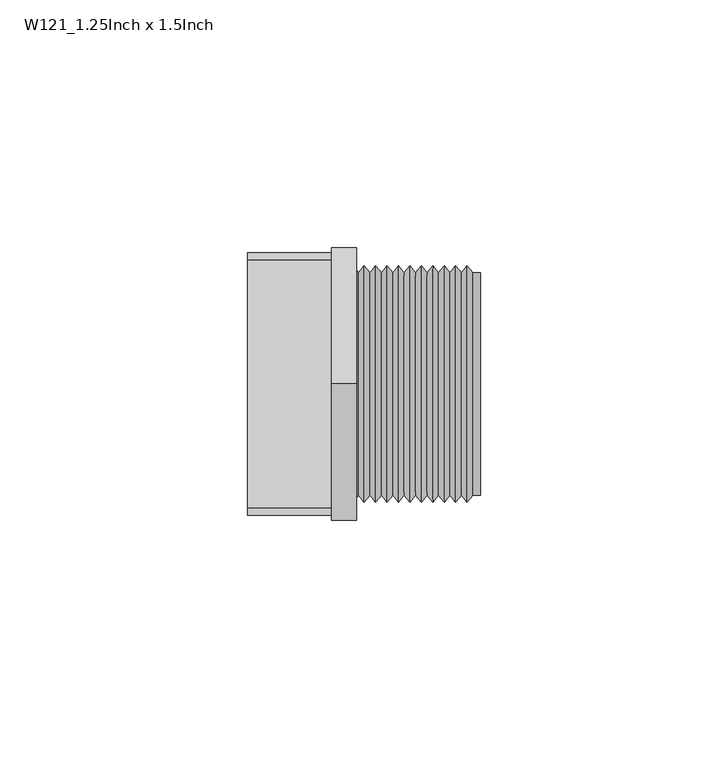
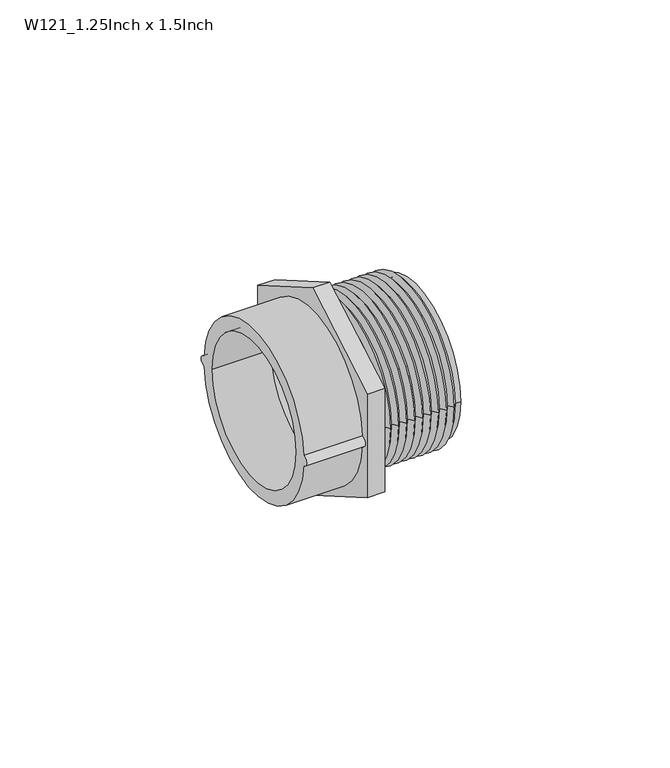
"""IFC4 building model written with IfcOpenShell, lengths in millimetres: pipe fitting geometry, Durapipe_PipeFitting_VulcatheneMechanical_1.25FIto1.5MI_W121 : W121_1.25Inch x 1.5Inch."""

from ifc_helpers import new_model, si_unit, frame, origin, place, context, project, spatial, polyline, circle_curve, source, transform, mapped, element, save
from ifc_brep_helpers import plane_surface, cylinder_surface, revolved_surface, advanced_brep


def w121_1_25inch_x_1_5inch_c2e79ad5(model_context):
    return source(origin(), model_context, "Body", "AdvancedBrep", [
        advanced_brep(
        [(-23.5, 24.955, 1.4993248), (-23.5, 24.955, -1.4993248), (-23.5, -24.955, -1.4993248), (-23.5, -24.955, 1.4993248), (-23.5, -20.955, 0.0), (-23.5, 20.955, 0.0), (-6.5, -24.955, 1.4993248), (-6.5, 24.955, 1.4993248), (-6.5, -24.955, -1.4993248), (-6.5, 24.955, -1.4993248), (-6.5, 20.955, 0.0), (-6.5, -20.955, 0.0), (-1.5, 0.0, 31.7542648), (-1.5, -27.5, 15.8771324), (-1.5, -27.5, -15.8771324), (-1.5, 0.0, -31.7542648), (-1.5, 27.5, -15.8771324), (-1.5, 27.5, 15.8771324), (-1.5, 22.9410542, 0.0), (-1.5, -22.9410542, 0.0), (-6.5, 0.0, 31.7542648), (-6.5, 27.5, 15.8771324), (-6.5, 27.5, -15.8771324), (-6.5, 0.0, -31.7542648), (-6.5, -27.5, -15.8771324), (-6.5, -27.5, 15.8771324), (-2.25329, 20.955, 0.0), (-1.5, 20.955, 0.0), (-1.5, -20.955, 0.0), (-2.25329, -20.955, 0.0), (23.5, -20.955, 0.0), (23.5, 20.955, 0.0), (23.5, -22.4296534, 0.0), (23.5, 22.4296534, 0.0), (22.0, -22.4296534, 0.0), (22.0, 22.4296534, 0.0), (20.84557, -23.9014, 0.0), (20.84557, 23.9014, 0.0), (19.69114, -22.4296534, 0.0), (19.69114, 22.4296534, 0.0), (18.53557, -23.9028534, 0.0), (18.53557, 23.9028534, 0.0), (17.38, -22.4296534, 0.0), (17.38, 22.4296534, 0.0), (16.22557, -23.9014, 0.0), (16.22557, 23.9014, 0.0), (15.07114, -22.4296534, 0.0), (15.07114, 22.4296534, 0.0), (13.91614, -23.9021267, 0.0), (13.91614, 23.9021267, 0.0), (12.76114, -22.4296534, 0.0), (12.76114, 22.4296534, 0.0), (11.60614, -23.9021267, 0.0), (11.60614, 23.9021267, 0.0), (10.45114, -22.4296534, 0.0), (10.45114, 22.4296534, 0.0), (9.29557, -23.9028534, 0.0), (9.29557, 23.9028534, 0.0), (8.14, -22.4296534, 0.0), (8.14, 22.4296534, 0.0), (6.985, -23.9021267, 0.0), (6.985, 23.9021267, 0.0), (5.83, -22.4296534, 0.0), (5.83, 22.4296534, 0.0), (4.675, -23.9021267, 0.0), (4.675, 23.9021267, 0.0), (3.52, -22.4296534, 0.0), (3.52, 22.4296534, 0.0), (2.365, -23.9021267, 0.0), (2.365, 23.9021267, 0.0), (1.21, -22.4296534, 0.0), (1.21, 22.4296534, 0.0), (0.05557, -23.9014, 0.0), (0.05557, 23.9014, 0.0), (-1.09886, -22.4296534, 0.0), (-1.09886, 22.4296534, 0.0)],
        [
            (0, 1, circle_curve(frame((-23.5, 25.0, 0.0), z_axis=(-1.0, 0.0, 0.0), x_axis=(0.0, 1.0, 0.0)), 1.5)),
            (1, 2, circle_curve(frame((-23.5, 0.0, 0.0), z_axis=(-1.0, 0.0, 0.0), x_axis=(0.0, 1.0, 0.0)), 25.0)),
            (2, 3, circle_curve(frame((-23.5, -25.0, 0.0), z_axis=(-1.0, 0.0, 0.0), x_axis=(0.0, 1.0, 0.0)), 1.5)),
            (3, 0, circle_curve(frame((-23.5, 0.0, 0.0), z_axis=(-1.0, 0.0, 0.0), x_axis=(0.0, 1.0, 0.0)), 25.0)),
            (4, 5, circle_curve(frame((-23.5, 0.0, 0.0), z_axis=(1.0, 0.0, 0.0), x_axis=(0.0, 1.0, 0.0)), 20.955)),
            (5, 4, circle_curve(frame((-23.5, 0.0, 0.0), z_axis=(1.0, 0.0, 0.0), x_axis=(0.0, 1.0, 0.0)), 20.955)),
            (3, 6),
            (6, 7, circle_curve(frame((-6.5, 0.0, 0.0), z_axis=(-1.0, 0.0, 0.0), x_axis=(0.0, 1.0, 0.0)), 25.0)),
            (7, 0),
            (2, 8),
            (8, 6, circle_curve(frame((-6.5, -25.0, 0.0), z_axis=(-1.0, 0.0, 0.0), x_axis=(0.0, 1.0, 0.0)), 1.5)),
            (1, 9),
            (9, 8, circle_curve(frame((-6.5, 0.0, 0.0), z_axis=(-1.0, 0.0, 0.0), x_axis=(0.0, 1.0, 0.0)), 25.0)),
            (7, 9, circle_curve(frame((-6.5, 25.0, 0.0), z_axis=(-1.0, 0.0, 0.0), x_axis=(0.0, 1.0, 0.0)), 1.5)),
            (5, 10),
            (10, 11, circle_curve(frame((-6.5, 0.0, 0.0), z_axis=(1.0, 0.0, 0.0), x_axis=(0.0, 1.0, 0.0)), 20.955)),
            (11, 4),
            (11, 10, circle_curve(frame((-6.5, 0.0, 0.0), z_axis=(1.0, 0.0, 0.0), x_axis=(0.0, 1.0, 0.0)), 20.955)),
            (12, 13),
            (13, 14),
            (14, 15),
            (15, 16),
            (16, 17),
            (17, 12),
            (18, 19, circle_curve(frame((-1.5, 0.0, 0.0), z_axis=(-1.0, 0.0, 0.0), x_axis=(0.0, 1.0, 0.0)), 22.9410542)),
            (19, 18, circle_curve(frame((-1.5, 0.0, 0.0), z_axis=(-1.0, 0.0, 0.0), x_axis=(0.0, 1.0, 0.0)), 22.9410542)),
            (20, 21),
            (21, 22),
            (22, 23),
            (23, 24),
            (24, 25),
            (25, 20),
            (12, 20),
            (25, 13),
            (24, 14),
            (23, 15),
            (22, 16),
            (21, 17),
            (10, 26),
            (26, 27),
            (27, 28, circle_curve(frame((-1.5, 0.0, 0.0), z_axis=(1.0, 0.0, 0.0), x_axis=(0.0, 1.0, 0.0)), 20.955)),
            (28, 29),
            (29, 11),
            (28, 27, circle_curve(frame((-1.5, 0.0, 0.0), z_axis=(1.0, 0.0, 0.0), x_axis=(0.0, 1.0, 0.0)), 20.955)),
            (30, 31, circle_curve(frame((23.5, 0.0, 0.0), z_axis=(1.0, 0.0, 0.0), x_axis=(0.0, 1.0, 0.0)), 20.955)),
            (31, 27),
            (28, 30),
            (31, 30, circle_curve(frame((23.5, 0.0, 0.0), z_axis=(1.0, 0.0, 0.0), x_axis=(0.0, 1.0, 0.0)), 20.955)),
            (30, 32),
            (32, 33, circle_curve(frame((23.5, 0.0, 0.0), z_axis=(1.0, 0.0, 0.0), x_axis=(0.0, 1.0, 0.0)), 22.4296534)),
            (33, 31),
            (33, 32, circle_curve(frame((23.5, 0.0, 0.0), z_axis=(1.0, 0.0, 0.0), x_axis=(0.0, 1.0, 0.0)), 22.4296534)),
            (32, 34),
            (34, 35, circle_curve(frame((22.0, 0.0, 0.0), z_axis=(1.0, 0.0, 0.0), x_axis=(0.0, 1.0, 0.0)), 22.4296534)),
            (35, 33),
            (35, 34, circle_curve(frame((22.0, 0.0, 0.0), z_axis=(1.0, 0.0, 0.0), x_axis=(0.0, 1.0, 0.0)), 22.4296534)),
            (34, 36),
            (36, 37, circle_curve(frame((20.84557, 0.0, 0.0), z_axis=(1.0, 0.0, 0.0), x_axis=(0.0, 1.0, 0.0)), 23.9014)),
            (37, 35),
            (37, 36, circle_curve(frame((20.84557, 0.0, 0.0), z_axis=(1.0, 0.0, 0.0), x_axis=(0.0, 1.0, 0.0)), 23.9014)),
            (36, 38),
            (38, 39, circle_curve(frame((19.69114, 0.0, 0.0), z_axis=(1.0, 0.0, 0.0), x_axis=(0.0, 1.0, 0.0)), 22.4296534)),
            (39, 37),
            (39, 38, circle_curve(frame((19.69114, 0.0, 0.0), z_axis=(1.0, 0.0, 0.0), x_axis=(0.0, 1.0, 0.0)), 22.4296534)),
            (38, 40),
            (40, 41, circle_curve(frame((18.53557, 0.0, 0.0), z_axis=(1.0, 0.0, 0.0), x_axis=(0.0, 1.0, 0.0)), 23.9028534)),
            (41, 39),
            (41, 40, circle_curve(frame((18.53557, 0.0, 0.0), z_axis=(1.0, 0.0, 0.0), x_axis=(0.0, 1.0, 0.0)), 23.9028534)),
            (40, 42),
            (42, 43, circle_curve(frame((17.38, 0.0, 0.0), z_axis=(1.0, 0.0, 0.0), x_axis=(0.0, 1.0, 0.0)), 22.4296534)),
            (43, 41),
            (43, 42, circle_curve(frame((17.38, 0.0, 0.0), z_axis=(1.0, 0.0, 0.0), x_axis=(0.0, 1.0, 0.0)), 22.4296534)),
            (42, 44),
            (44, 45, circle_curve(frame((16.22557, 0.0, 0.0), z_axis=(1.0, 0.0, 0.0), x_axis=(0.0, 1.0, 0.0)), 23.9014)),
            (45, 43),
            (45, 44, circle_curve(frame((16.22557, 0.0, 0.0), z_axis=(1.0, 0.0, 0.0), x_axis=(0.0, 1.0, 0.0)), 23.9014)),
            (44, 46),
            (46, 47, circle_curve(frame((15.07114, 0.0, 0.0), z_axis=(1.0, 0.0, 0.0), x_axis=(0.0, 1.0, 0.0)), 22.4296534)),
            (47, 45),
            (47, 46, circle_curve(frame((15.07114, 0.0, 0.0), z_axis=(1.0, 0.0, 0.0), x_axis=(0.0, 1.0, 0.0)), 22.4296534)),
            (46, 48),
            (48, 49, circle_curve(frame((13.91614, 0.0, 0.0), z_axis=(1.0, 0.0, 0.0), x_axis=(0.0, 1.0, 0.0)), 23.9021267)),
            (49, 47),
            (49, 48, circle_curve(frame((13.91614, 0.0, 0.0), z_axis=(1.0, 0.0, 0.0), x_axis=(0.0, 1.0, 0.0)), 23.9021267)),
            (48, 50),
            (50, 51, circle_curve(frame((12.76114, 0.0, 0.0), z_axis=(1.0, 0.0, 0.0), x_axis=(0.0, 1.0, 0.0)), 22.4296534)),
            (51, 49),
            (51, 50, circle_curve(frame((12.76114, 0.0, 0.0), z_axis=(1.0, 0.0, 0.0), x_axis=(0.0, 1.0, 0.0)), 22.4296534)),
            (50, 52),
            (52, 53, circle_curve(frame((11.60614, 0.0, 0.0), z_axis=(1.0, 0.0, 0.0), x_axis=(0.0, 1.0, 0.0)), 23.9021267)),
            (53, 51),
            (53, 52, circle_curve(frame((11.60614, 0.0, 0.0), z_axis=(1.0, 0.0, 0.0), x_axis=(0.0, 1.0, 0.0)), 23.9021267)),
            (52, 54),
            (54, 55, circle_curve(frame((10.45114, 0.0, 0.0), z_axis=(1.0, 0.0, 0.0), x_axis=(0.0, 1.0, 0.0)), 22.4296534)),
            (55, 53),
            (55, 54, circle_curve(frame((10.45114, 0.0, 0.0), z_axis=(1.0, 0.0, 0.0), x_axis=(0.0, 1.0, 0.0)), 22.4296534)),
            (54, 56),
            (56, 57, circle_curve(frame((9.29557, 0.0, 0.0), z_axis=(1.0, 0.0, 0.0), x_axis=(0.0, 1.0, 0.0)), 23.9028534)),
            (57, 55),
            (57, 56, circle_curve(frame((9.29557, 0.0, 0.0), z_axis=(1.0, 0.0, 0.0), x_axis=(0.0, 1.0, 0.0)), 23.9028534)),
            (56, 58),
            (58, 59, circle_curve(frame((8.14, 0.0, 0.0), z_axis=(1.0, 0.0, 0.0), x_axis=(0.0, 1.0, 0.0)), 22.4296534)),
            (59, 57),
            (59, 58, circle_curve(frame((8.14, 0.0, 0.0), z_axis=(1.0, 0.0, 0.0), x_axis=(0.0, 1.0, 0.0)), 22.4296534)),
            (58, 60),
            (60, 61, circle_curve(frame((6.985, 0.0, 0.0), z_axis=(1.0, 0.0, 0.0), x_axis=(0.0, 1.0, 0.0)), 23.9021267)),
            (61, 59),
            (61, 60, circle_curve(frame((6.985, 0.0, 0.0), z_axis=(1.0, 0.0, 0.0), x_axis=(0.0, 1.0, 0.0)), 23.9021267)),
            (60, 62),
            (62, 63, circle_curve(frame((5.83, 0.0, 0.0), z_axis=(1.0, 0.0, 0.0), x_axis=(0.0, 1.0, 0.0)), 22.4296534)),
            (63, 61),
            (63, 62, circle_curve(frame((5.83, 0.0, 0.0), z_axis=(1.0, 0.0, 0.0), x_axis=(0.0, 1.0, 0.0)), 22.4296534)),
            (62, 64),
            (64, 65, circle_curve(frame((4.675, 0.0, 0.0), z_axis=(1.0, 0.0, 0.0), x_axis=(0.0, 1.0, 0.0)), 23.9021267)),
            (65, 63),
            (65, 64, circle_curve(frame((4.675, 0.0, 0.0), z_axis=(1.0, 0.0, 0.0), x_axis=(0.0, 1.0, 0.0)), 23.9021267)),
            (64, 66),
            (66, 67, circle_curve(frame((3.52, 0.0, 0.0), z_axis=(1.0, 0.0, 0.0), x_axis=(0.0, 1.0, 0.0)), 22.4296534)),
            (67, 65),
            (67, 66, circle_curve(frame((3.52, 0.0, 0.0), z_axis=(1.0, 0.0, 0.0), x_axis=(0.0, 1.0, 0.0)), 22.4296534)),
            (66, 68),
            (68, 69, circle_curve(frame((2.365, 0.0, 0.0), z_axis=(1.0, 0.0, 0.0), x_axis=(0.0, 1.0, 0.0)), 23.9021267)),
            (69, 67),
            (69, 68, circle_curve(frame((2.365, 0.0, 0.0), z_axis=(1.0, 0.0, 0.0), x_axis=(0.0, 1.0, 0.0)), 23.9021267)),
            (68, 70),
            (70, 71, circle_curve(frame((1.21, 0.0, 0.0), z_axis=(1.0, 0.0, 0.0), x_axis=(0.0, 1.0, 0.0)), 22.4296534)),
            (71, 69),
            (71, 70, circle_curve(frame((1.21, 0.0, 0.0), z_axis=(1.0, 0.0, 0.0), x_axis=(0.0, 1.0, 0.0)), 22.4296534)),
            (70, 72),
            (72, 73, circle_curve(frame((0.05557, 0.0, 0.0), z_axis=(1.0, 0.0, 0.0), x_axis=(0.0, 1.0, 0.0)), 23.9014)),
            (73, 71),
            (73, 72, circle_curve(frame((0.05557, 0.0, 0.0), z_axis=(1.0, 0.0, 0.0), x_axis=(0.0, 1.0, 0.0)), 23.9014)),
            (72, 74),
            (74, 75, circle_curve(frame((-1.09886, 0.0, 0.0), z_axis=(1.0, 0.0, 0.0), x_axis=(0.0, 1.0, 0.0)), 22.4296534)),
            (75, 73),
            (75, 74, circle_curve(frame((-1.09886, 0.0, 0.0), z_axis=(1.0, 0.0, 0.0), x_axis=(0.0, 1.0, 0.0)), 22.4296534)),
            (74, 19),
            (18, 75),
        ],
        [
            plane_surface(frame((-23.5, 25.0, 0.0), z_axis=(-1.0, 0.0, 0.0), x_axis=(0.0, 0.0, -1.0))),
            cylinder_surface(frame((-23.5, 0.0, 0.0), z_axis=(1.0, 0.0, 0.0), x_axis=(0.0, 1.0, 0.0)), 25.0),
            cylinder_surface(frame((-23.5, -25.0, 0.0), z_axis=(1.0, 0.0, 0.0), x_axis=(0.0, 1.0, 0.0)), 1.5),
            cylinder_surface(frame((-23.5, 25.0, 0.0), z_axis=(1.0, 0.0, 0.0), x_axis=(0.0, 1.0, 0.0)), 1.5),
            revolved_surface(polyline([(-23.5, 20.955, 0.0), (-6.5, 20.955, 0.0)]), (0.0, 0.0, 0.0), (-1.0, 0.0, 0.0)),
            plane_surface(frame((-1.5, 0.0, 31.7542648), z_axis=(1.0, 0.0, 0.0), x_axis=(0.0, -0.8660254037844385, -0.5000000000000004))),
            plane_surface(frame((-6.5, 0.0, 31.7542648), z_axis=(-1.0, 0.0, 0.0), x_axis=(0.0, 0.8660254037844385, 0.5000000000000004))),
            plane_surface(frame((-1.5, 0.0, 31.7542648), z_axis=(0.0, -0.5000000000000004, 0.8660254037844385), x_axis=(-1.0, 0.0, 0.0))),
            plane_surface(frame((-1.5, -27.5, 15.8771324), z_axis=(0.0, -1.0, 0.0), x_axis=(-1.0, 0.0, 0.0))),
            plane_surface(frame((-1.5, -27.5, -15.8771324), z_axis=(0.0, -0.4999999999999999, -0.8660254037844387), x_axis=(-1.0, 0.0, 0.0))),
            plane_surface(frame((-1.5, 0.0, -31.7542648), z_axis=(0.0, 0.5000000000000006, -0.8660254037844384), x_axis=(-1.0, 0.0, 0.0))),
            plane_surface(frame((-1.5, 27.5, -15.8771324), z_axis=(0.0, 1.0, 0.0), x_axis=(-1.0, 0.0, 0.0))),
            plane_surface(frame((-1.5, 27.5, 15.8771324), z_axis=(0.0, 0.5000000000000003, 0.8660254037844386), x_axis=(-1.0, 0.0, 0.0))),
            revolved_surface(polyline([(-6.5, 20.955, 0.0), (-1.5, 20.955, 0.0)]), (0.0, 0.0, 0.0), (-1.0, 0.0, 0.0)),
            revolved_surface(polyline([(-1.5, 20.955, 0.0), (23.5, 20.955, 0.0)]), (1571.2518184, 0.0, 0.0), (-1.0, 0.0, 0.0)),
            plane_surface(frame((23.5, 0.0, 0.0), z_axis=(1.0, 0.0, 0.0), x_axis=(0.0, 1.0, 0.0))),
            cylinder_surface(frame((1571.2518184, 0.0, 0.0), z_axis=(-1.0, 0.0, 0.0), x_axis=(0.0, 1.0, 0.0)), 22.4296534),
            revolved_surface(polyline([(22.0, 22.4296534, 0.0), (20.84557, 23.9014, 0.0)]), (1571.2518184, 0.0, 0.0), (-1.0, 0.0, 0.0)),
            revolved_surface(polyline([(20.84557, 23.9014, 0.0), (19.69114, 22.4296534, 0.0)]), (1571.2518184, 0.0, 0.0), (-1.0, 0.0, 0.0)),
            revolved_surface(polyline([(19.69114, 22.4296534, 0.0), (18.53557, 23.9028534, 0.0)]), (1571.2518184, 0.0, 0.0), (-1.0, 0.0, 0.0)),
            revolved_surface(polyline([(18.53557, 23.9028534, 0.0), (17.38, 22.4296534, 0.0)]), (1571.2518184, 0.0, 0.0), (-1.0, 0.0, 0.0)),
            revolved_surface(polyline([(17.38, 22.4296534, 0.0), (16.22557, 23.9014, 0.0)]), (1571.2518184, 0.0, 0.0), (-1.0, 0.0, 0.0)),
            revolved_surface(polyline([(16.22557, 23.9014, 0.0), (15.07114, 22.4296534, 0.0)]), (1571.2518184, 0.0, 0.0), (-1.0, 0.0, 0.0)),
            revolved_surface(polyline([(15.07114, 22.4296534, 0.0), (13.91614, 23.9021267, 0.0)]), (1571.2518184, 0.0, 0.0), (-1.0, 0.0, 0.0)),
            revolved_surface(polyline([(13.91614, 23.9021267, 0.0), (12.76114, 22.4296534, 0.0)]), (1571.2518184, 0.0, 0.0), (-1.0, 0.0, 0.0)),
            revolved_surface(polyline([(12.76114, 22.4296534, 0.0), (11.60614, 23.9021267, 0.0)]), (1571.2518184, 0.0, 0.0), (-1.0, 0.0, 0.0)),
            revolved_surface(polyline([(11.60614, 23.9021267, 0.0), (10.45114, 22.4296534, 0.0)]), (1571.2518184, 0.0, 0.0), (-1.0, 0.0, 0.0)),
            revolved_surface(polyline([(10.45114, 22.4296534, 0.0), (9.29557, 23.9028534, 0.0)]), (1571.2518184, 0.0, 0.0), (-1.0, 0.0, 0.0)),
            revolved_surface(polyline([(9.29557, 23.9028534, 0.0), (8.14, 22.4296534, 0.0)]), (1571.2518184, 0.0, 0.0), (-1.0, 0.0, 0.0)),
            revolved_surface(polyline([(8.14, 22.4296534, 0.0), (6.985, 23.9021267, 0.0)]), (1571.2518184, 0.0, 0.0), (-1.0, 0.0, 0.0)),
            revolved_surface(polyline([(6.985, 23.9021267, 0.0), (5.83, 22.4296534, 0.0)]), (1571.2518184, 0.0, 0.0), (-1.0, 0.0, 0.0)),
            revolved_surface(polyline([(5.83, 22.4296534, 0.0), (4.675, 23.9021267, 0.0)]), (1571.2518184, 0.0, 0.0), (-1.0, 0.0, 0.0)),
            revolved_surface(polyline([(4.675, 23.9021267, 0.0), (3.52, 22.4296534, 0.0)]), (1571.2518184, 0.0, 0.0), (-1.0, 0.0, 0.0)),
            revolved_surface(polyline([(3.52, 22.4296534, 0.0), (2.365, 23.9021267, 0.0)]), (1571.2518184, 0.0, 0.0), (-1.0, 0.0, 0.0)),
            revolved_surface(polyline([(2.365, 23.9021267, 0.0), (1.21, 22.4296534, 0.0)]), (1571.2518184, 0.0, 0.0), (-1.0, 0.0, 0.0)),
            revolved_surface(polyline([(1.21, 22.4296534, 0.0), (0.05557, 23.9014, 0.0)]), (1571.2518184, 0.0, 0.0), (-1.0, 0.0, 0.0)),
            revolved_surface(polyline([(0.05557, 23.9014, 0.0), (-1.09886, 22.4296534, 0.0)]), (1571.2518184, 0.0, 0.0), (-1.0, 0.0, 0.0)),
            revolved_surface(polyline([(-1.09886, 22.4296534, 0.0), (-2.25329, 23.9014, 0.0)]), (1571.2518184, 0.0, 0.0), (-1.0, 0.0, 0.0)),
        ],
        [
            (0, [[1, 2, 3, 4], [5, 6]]),
            (1, [[-4, 7, 8, 9]]),
            (2, [[-3, 10, 11, -7]]),
            (1, [[-2, 12, 13, -10]]),
            (3, [[-1, -9, 14, -12]]),
            (4, [[-6, 15, 16, 17]]),
            (4, [[-5, -17, 18, -15]]),
            (5, [[19, 20, 21, 22, 23, 24], [25, 26]]),
            (6, [[27, 28, 29, 30, 31, 32], [-8, -11, -13, -14]]),
            (7, [[-19, 33, -32, 34]]),
            (8, [[-20, -34, -31, 35]]),
            (9, [[-21, -35, -30, 36]]),
            (10, [[-22, -36, -29, 37]]),
            (11, [[-23, -37, -28, 38]]),
            (12, [[-24, -38, -27, -33]]),
            (13, [[-16, 39, 40, 41, 42, 43]]),
            (13, [[-18, -43, -42, 44, -40, -39]]),
            (14, [[45, 46, -44, 47]]),
            (14, [[48, -47, -41, -46]]),
            (15, [[-45, 49, 50, 51]]),
            (15, [[-48, -51, 52, -49]]),
            (16, [[-50, 53, 54, 55]]),
            (16, [[-52, -55, 56, -53]]),
            (17, [[-54, 57, 58, 59]]),
            (17, [[-56, -59, 60, -57]]),
            (18, [[-58, 61, 62, 63]]),
            (18, [[-60, -63, 64, -61]]),
            (19, [[-62, 65, 66, 67]]),
            (19, [[-64, -67, 68, -65]]),
            (20, [[-66, 69, 70, 71]]),
            (20, [[-68, -71, 72, -69]]),
            (21, [[-70, 73, 74, 75]]),
            (21, [[-72, -75, 76, -73]]),
            (22, [[-74, 77, 78, 79]]),
            (22, [[-76, -79, 80, -77]]),
            (23, [[-78, 81, 82, 83]]),
            (23, [[-80, -83, 84, -81]]),
            (24, [[-82, 85, 86, 87]]),
            (24, [[-84, -87, 88, -85]]),
            (25, [[-86, 89, 90, 91]]),
            (25, [[-88, -91, 92, -89]]),
            (26, [[-90, 93, 94, 95]]),
            (26, [[-92, -95, 96, -93]]),
            (27, [[-94, 97, 98, 99]]),
            (27, [[-96, -99, 100, -97]]),
            (28, [[-98, 101, 102, 103]]),
            (28, [[-100, -103, 104, -101]]),
            (29, [[-102, 105, 106, 107]]),
            (29, [[-104, -107, 108, -105]]),
            (30, [[-106, 109, 110, 111]]),
            (30, [[-108, -111, 112, -109]]),
            (31, [[-110, 113, 114, 115]]),
            (31, [[-112, -115, 116, -113]]),
            (32, [[-114, 117, 118, 119]]),
            (32, [[-116, -119, 120, -117]]),
            (33, [[-118, 121, 122, 123]]),
            (33, [[-120, -123, 124, -121]]),
            (34, [[-122, 125, 126, 127]]),
            (34, [[-124, -127, 128, -125]]),
            (35, [[-126, 129, 130, 131]]),
            (35, [[-128, -131, 132, -129]]),
            (36, [[-130, 133, 134, 135]]),
            (36, [[-132, -135, 136, -133]]),
            (37, [[-134, 137, -25, 138]]),
            (37, [[-136, -138, -26, -137]]),
        ],
    ),
    ])


if __name__ == "__main__":
    model = new_model("IFC4")
    model_context = context("Model", 3, world=origin())
    ifc_project = project(units=[si_unit("LENGTHUNIT", "METRE", prefix="MILLI")], contexts=[model_context])
    site = spatial("IfcSite", under=ifc_project)
    building = spatial("IfcBuilding", under=site)
    placement = place(None, origin())
    w121_1_25inch_x_1_5inch_shape = w121_1_25inch_x_1_5inch_c2e79ad5(model_context)
    element("IfcPipeFitting", 1, ObjectType="Durapipe_PipeFitting_VulcatheneMechanical_1.25FIto1.5MI_W121 : W121_1.25Inch x 1.5Inch", at=placement, inside=building, context=model_context, shape_type="MappedRepresentation", body=[
        mapped(w121_1_25inch_x_1_5inch_shape, transform((0.0, 0.0, 0.0), x_axis=(1.0, 0.0, 0.0), y_axis=(0.0, 1.0, 0.0), z_axis=(0.0, 0.0, 1.0))),
    ])
    save(model, "model.ifc")
